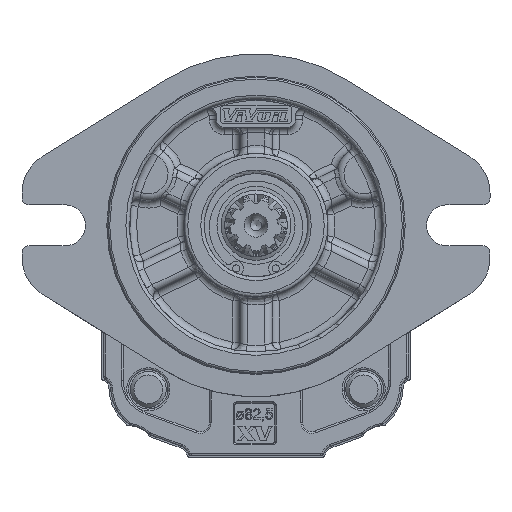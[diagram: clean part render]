
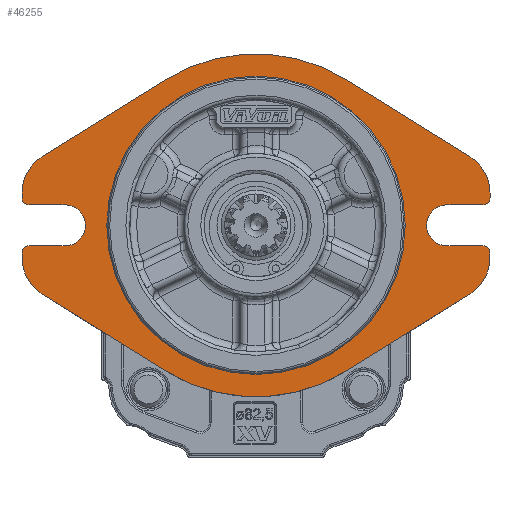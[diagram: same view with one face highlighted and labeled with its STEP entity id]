
A CAD part, front view. The second image highlights one B-rep face of the part: STEP entity #46255.
In plain terms, the highlighted planar face has unit normal (0, -1, 0).
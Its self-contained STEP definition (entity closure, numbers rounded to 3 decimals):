
#2739=LINE('',#65023,#4763);
#2743=LINE('',#65035,#4767);
#2744=LINE('',#65037,#4768);
#2751=LINE('',#65056,#4775);
#2752=LINE('',#65058,#4776);
#2759=LINE('',#65087,#4783);
#2760=LINE('',#65092,#4784);
#2761=LINE('',#65096,#4785);
#2762=LINE('',#65099,#4786);
#2763=LINE('',#65103,#4787);
#2764=LINE('',#65107,#4788);
#2765=LINE('',#65111,#4789);
#4763=VECTOR('',#53389,1000.);
#4767=VECTOR('',#53401,1000.);
#4768=VECTOR('',#53404,1000.);
#4775=VECTOR('',#53419,1000.);
#4776=VECTOR('',#53422,1000.);
#4783=VECTOR('',#53451,1000.);
#4784=VECTOR('',#53454,1000.);
#4785=VECTOR('',#53457,1000.);
#4786=VECTOR('',#53462,1000.);
#4787=VECTOR('',#53465,1000.);
#4788=VECTOR('',#53468,1000.);
#4789=VECTOR('',#53471,1000.);
#6436=PLANE('',#48719);
#9930=ORIENTED_EDGE('',*,*,#18833,.T.);
#9931=ORIENTED_EDGE('',*,*,#18834,.F.);
#9932=ORIENTED_EDGE('',*,*,#18835,.T.);
#9933=ORIENTED_EDGE('',*,*,#18836,.F.);
#9934=ORIENTED_EDGE('',*,*,#18837,.F.);
#9935=ORIENTED_EDGE('',*,*,#18838,.F.);
#9936=ORIENTED_EDGE('',*,*,#18754,.F.);
#9937=ORIENTED_EDGE('',*,*,#18803,.F.);
#9938=ORIENTED_EDGE('',*,*,#18806,.F.);
#9939=ORIENTED_EDGE('',*,*,#18809,.F.);
#9940=ORIENTED_EDGE('',*,*,#18839,.T.);
#9941=ORIENTED_EDGE('',*,*,#18810,.F.);
#9942=ORIENTED_EDGE('',*,*,#18816,.F.);
#9943=ORIENTED_EDGE('',*,*,#18819,.F.);
#9944=ORIENTED_EDGE('',*,*,#18840,.T.);
#9945=ORIENTED_EDGE('',*,*,#18820,.F.);
#9946=ORIENTED_EDGE('',*,*,#18832,.F.);
#9947=ORIENTED_EDGE('',*,*,#18841,.F.);
#9948=ORIENTED_EDGE('',*,*,#18842,.F.);
#9949=ORIENTED_EDGE('',*,*,#18843,.F.);
#9950=ORIENTED_EDGE('',*,*,#18844,.F.);
#9951=ORIENTED_EDGE('',*,*,#18845,.F.);
#9952=ORIENTED_EDGE('',*,*,#18846,.T.);
#9953=ORIENTED_EDGE('',*,*,#18847,.F.);
#9954=ORIENTED_EDGE('',*,*,#18848,.F.);
#18754=EDGE_CURVE('',#23353,#23354,#26006,.T.);
#18803=EDGE_CURVE('',#23396,#23353,#2739,.T.);
#18806=EDGE_CURVE('',#23398,#23396,#26034,.T.);
#18809=EDGE_CURVE('',#23400,#23398,#2743,.T.);
#18810=EDGE_CURVE('',#23401,#23402,#2744,.T.);
#18816=EDGE_CURVE('',#23406,#23401,#26036,.T.);
#18819=EDGE_CURVE('',#23408,#23406,#2751,.T.);
#18820=EDGE_CURVE('',#23409,#23410,#2752,.T.);
#18832=EDGE_CURVE('',#23418,#23409,#26042,.T.);
#18833=EDGE_CURVE('',#23419,#23419,#26043,.T.);
#18834=EDGE_CURVE('',#23420,#23421,#2759,.T.);
#18835=EDGE_CURVE('',#23420,#23422,#26044,.F.);
#18836=EDGE_CURVE('',#23423,#23422,#2760,.T.);
#18837=EDGE_CURVE('',#23424,#23423,#26045,.T.);
#18838=EDGE_CURVE('',#23354,#23424,#2761,.T.);
#18839=EDGE_CURVE('',#23400,#23402,#26046,.F.);
#18840=EDGE_CURVE('',#23408,#23410,#26047,.F.);
#18841=EDGE_CURVE('',#23425,#23418,#2762,.T.);
#18842=EDGE_CURVE('',#23426,#23425,#26048,.T.);
#18843=EDGE_CURVE('',#23427,#23426,#2763,.T.);
#18844=EDGE_CURVE('',#23428,#23427,#26049,.T.);
#18845=EDGE_CURVE('',#23429,#23428,#2764,.T.);
#18846=EDGE_CURVE('',#23429,#23430,#26050,.F.);
#18847=EDGE_CURVE('',#23431,#23430,#2765,.T.);
#18848=EDGE_CURVE('',#23421,#23431,#26051,.T.);
#23353=VERTEX_POINT('',#64923);
#23354=VERTEX_POINT('',#64925);
#23396=VERTEX_POINT('',#65022);
#23398=VERTEX_POINT('',#65028);
#23400=VERTEX_POINT('',#65034);
#23401=VERTEX_POINT('',#65038);
#23402=VERTEX_POINT('',#65039);
#23406=VERTEX_POINT('',#65049);
#23408=VERTEX_POINT('',#65055);
#23409=VERTEX_POINT('',#65059);
#23410=VERTEX_POINT('',#65060);
#23418=VERTEX_POINT('',#65082);
#23419=VERTEX_POINT('',#65086);
#23420=VERTEX_POINT('',#65088);
#23421=VERTEX_POINT('',#65089);
#23422=VERTEX_POINT('',#65091);
#23423=VERTEX_POINT('',#65093);
#23424=VERTEX_POINT('',#65095);
#23425=VERTEX_POINT('',#65100);
#23426=VERTEX_POINT('',#65102);
#23427=VERTEX_POINT('',#65104);
#23428=VERTEX_POINT('',#65106);
#23429=VERTEX_POINT('',#65108);
#23430=VERTEX_POINT('',#65110);
#23431=VERTEX_POINT('',#65112);
#26006=CIRCLE('',#48668,47.75);
#26034=CIRCLE('',#48702,12.);
#26036=CIRCLE('',#48707,5.7);
#26042=CIRCLE('',#48718,12.);
#26043=CIRCLE('',#48720,40.982);
#26044=CIRCLE('',#48721,2.);
#26045=CIRCLE('',#48722,12.);
#26046=CIRCLE('',#48723,2.);
#26047=CIRCLE('',#48724,2.);
#26048=CIRCLE('',#48725,47.75);
#26049=CIRCLE('',#48726,12.);
#26050=CIRCLE('',#48727,2.);
#26051=CIRCLE('',#48728,5.7);
#27744=EDGE_LOOP('',(#9930));
#27745=EDGE_LOOP('',(#9931,#9932,#9933,#9934,#9935,#9936,#9937,#9938,#9939,
#9940,#9941,#9942,#9943,#9944,#9945,#9946,#9947,#9948,#9949,#9950,#9951,
#9952,#9953,#9954));
#30022=FACE_BOUND('',#27744,.T.);
#30023=FACE_BOUND('',#27745,.T.);
#46255=ADVANCED_FACE('',(#30022,#30023),#6436,.F.);
#48668=AXIS2_PLACEMENT_3D('',#64924,#53305,#53306);
#48702=AXIS2_PLACEMENT_3D('',#65029,#53395,#53396);
#48707=AXIS2_PLACEMENT_3D('',#65050,#53413,#53414);
#48718=AXIS2_PLACEMENT_3D('',#65083,#53445,#53446);
#48719=AXIS2_PLACEMENT_3D('',#65084,#53447,#53448);
#48720=AXIS2_PLACEMENT_3D('',#65085,#53449,#53450);
#48721=AXIS2_PLACEMENT_3D('',#65090,#53452,#53453);
#48722=AXIS2_PLACEMENT_3D('',#65094,#53455,#53456);
#48723=AXIS2_PLACEMENT_3D('',#65097,#53458,#53459);
#48724=AXIS2_PLACEMENT_3D('',#65098,#53460,#53461);
#48725=AXIS2_PLACEMENT_3D('',#65101,#53463,#53464);
#48726=AXIS2_PLACEMENT_3D('',#65105,#53466,#53467);
#48727=AXIS2_PLACEMENT_3D('',#65109,#53469,#53470);
#48728=AXIS2_PLACEMENT_3D('',#65113,#53472,#53473);
#53305=DIRECTION('',(0.,1.,0.));
#53306=DIRECTION('',(-1.,0.,0.));
#53389=DIRECTION('',(-0.849,0.,-0.528));
#53395=DIRECTION('',(0.,1.,0.));
#53396=DIRECTION('',(-1.,0.,0.));
#53401=DIRECTION('',(0.,0.,-1.));
#53404=DIRECTION('',(1.,0.,0.));
#53413=DIRECTION('',(0.,-1.,0.));
#53414=DIRECTION('',(1.,0.,0.));
#53419=DIRECTION('',(-1.,0.,0.));
#53422=DIRECTION('',(0.,0.,-1.));
#53445=DIRECTION('',(0.,1.,0.));
#53446=DIRECTION('',(-1.,0.,0.));
#53447=DIRECTION('',(0.,1.,0.));
#53448=DIRECTION('',(0.,0.,-1.));
#53449=DIRECTION('',(0.,1.,0.));
#53450=DIRECTION('',(-1.,0.,0.));
#53451=DIRECTION('',(1.,0.,0.));
#53452=DIRECTION('',(0.,1.,0.));
#53453=DIRECTION('',(0.,0.,-1.));
#53454=DIRECTION('',(0.,0.,1.));
#53455=DIRECTION('',(0.,1.,0.));
#53456=DIRECTION('',(1.,0.,0.));
#53457=DIRECTION('',(-0.849,0.,0.528));
#53458=DIRECTION('',(0.,1.,0.));
#53459=DIRECTION('',(0.,0.,-1.));
#53460=DIRECTION('',(0.,1.,0.));
#53461=DIRECTION('',(0.,0.,-1.));
#53462=DIRECTION('',(0.849,0.,-0.528));
#53463=DIRECTION('',(0.,1.,0.));
#53464=DIRECTION('',(-1.,0.,0.));
#53465=DIRECTION('',(0.849,0.,0.528));
#53466=DIRECTION('',(0.,1.,0.));
#53467=DIRECTION('',(1.,0.,0.));
#53468=DIRECTION('',(0.,0.,1.));
#53469=DIRECTION('',(0.,1.,0.));
#53470=DIRECTION('',(0.,0.,-1.));
#53471=DIRECTION('',(-1.,0.,0.));
#53472=DIRECTION('',(0.,-1.,0.));
#53473=DIRECTION('',(-1.,0.,0.));
#64923=CARTESIAN_POINT('',(25.235,-19.,-24.837));
#64924=CARTESIAN_POINT('',(0.,-19.,15.7));
#64925=CARTESIAN_POINT('',(-25.235,-19.,-24.837));
#65022=CARTESIAN_POINT('',(59.532,-19.,-3.487));
#65023=CARTESIAN_POINT('',(59.532,-19.,-3.487));
#65028=CARTESIAN_POINT('',(65.19,-19.,6.7));
#65029=CARTESIAN_POINT('',(53.19,-19.,6.7));
#65034=CARTESIAN_POINT('',(65.19,-19.,8.));
#65035=CARTESIAN_POINT('',(65.19,-19.,6.7));
#65037=CARTESIAN_POINT('',(53.19,-19.,10.));
#65038=CARTESIAN_POINT('',(53.19,-19.,10.));
#65039=CARTESIAN_POINT('',(63.19,-19.,10.));
#65049=CARTESIAN_POINT('',(53.19,-19.,21.4));
#65050=CARTESIAN_POINT('',(53.19,-19.,15.7));
#65055=CARTESIAN_POINT('',(63.19,-19.,21.4));
#65056=CARTESIAN_POINT('',(53.19,-19.,21.4));
#65058=CARTESIAN_POINT('',(65.19,-19.,24.7));
#65059=CARTESIAN_POINT('',(65.19,-19.,24.7));
#65060=CARTESIAN_POINT('',(65.19,-19.,23.4));
#65082=CARTESIAN_POINT('',(59.532,-19.,34.887));
#65083=CARTESIAN_POINT('',(53.19,-19.,24.7));
#65084=CARTESIAN_POINT('',(0.,-19.,15.7));
#65085=CARTESIAN_POINT('',(0.,-19.,15.7));
#65086=CARTESIAN_POINT('',(-40.982,-19.,15.7));
#65087=CARTESIAN_POINT('',(-53.19,-19.,10.));
#65088=CARTESIAN_POINT('',(-63.19,-19.,10.));
#65089=CARTESIAN_POINT('',(-53.19,-19.,10.));
#65090=CARTESIAN_POINT('',(-63.19,-19.,8.));
#65091=CARTESIAN_POINT('',(-65.19,-19.,8.));
#65092=CARTESIAN_POINT('',(-65.19,-19.,6.7));
#65093=CARTESIAN_POINT('',(-65.19,-19.,6.7));
#65094=CARTESIAN_POINT('',(-53.19,-19.,6.7));
#65095=CARTESIAN_POINT('',(-59.532,-19.,-3.487));
#65096=CARTESIAN_POINT('',(-59.532,-19.,-3.487));
#65097=CARTESIAN_POINT('',(63.19,-19.,8.));
#65098=CARTESIAN_POINT('',(63.19,-19.,23.4));
#65099=CARTESIAN_POINT('',(25.235,-19.,56.237));
#65100=CARTESIAN_POINT('',(25.235,-19.,56.237));
#65101=CARTESIAN_POINT('',(0.,-19.,15.7));
#65102=CARTESIAN_POINT('',(-25.235,-19.,56.237));
#65103=CARTESIAN_POINT('',(-25.235,-19.,56.237));
#65104=CARTESIAN_POINT('',(-59.532,-19.,34.887));
#65105=CARTESIAN_POINT('',(-53.19,-19.,24.7));
#65106=CARTESIAN_POINT('',(-65.19,-19.,24.7));
#65107=CARTESIAN_POINT('',(-65.19,-19.,24.7));
#65108=CARTESIAN_POINT('',(-65.19,-19.,23.4));
#65109=CARTESIAN_POINT('',(-63.19,-19.,23.4));
#65110=CARTESIAN_POINT('',(-63.19,-19.,21.4));
#65111=CARTESIAN_POINT('',(-53.19,-19.,21.4));
#65112=CARTESIAN_POINT('',(-53.19,-19.,21.4));
#65113=CARTESIAN_POINT('',(-53.19,-19.,15.7));
